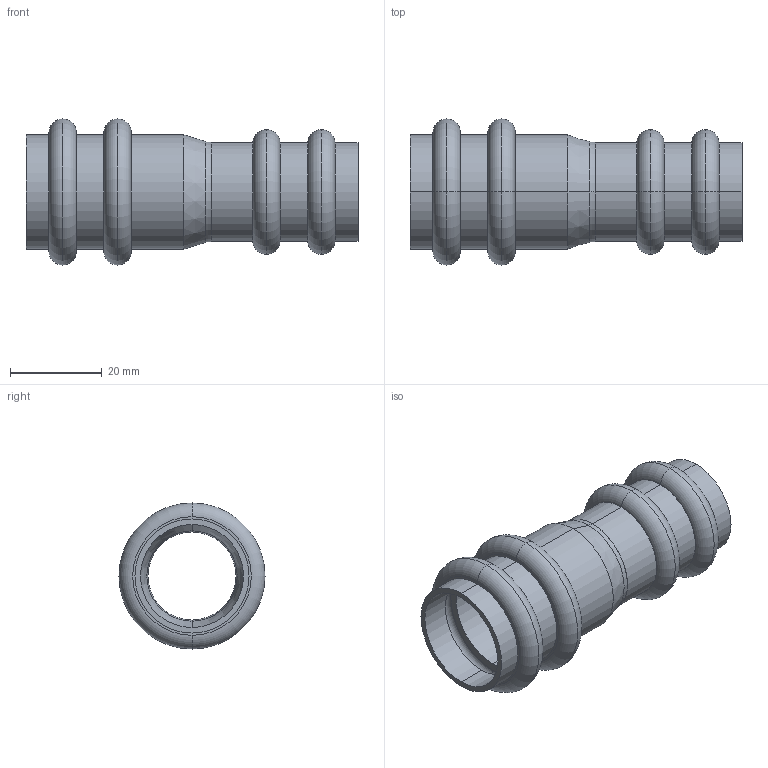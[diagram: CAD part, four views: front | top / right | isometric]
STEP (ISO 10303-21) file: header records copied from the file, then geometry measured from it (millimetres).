
FILE_DESCRIPTION(('starvars output'),'1');
FILE_NAME('cv20240422105340000011619.stp','10:53:41 2024/04/22',('Thomas Industrial Network Germany GmbH'),(' '),'Spatial InterOp 3D',' ',' ');
FILE_SCHEMA(('AUTOMOTIVE_DESIGN { 1 0 10303 214 3 1 1 }'));
Length unit declared in the file: millimetre
Products named in the file (1): 1
Bounding box: 72.5 x 31.9 x 31.9 mm (x, y, z)
Volume: 8189.9 mm3; surface area: 13566.6 mm2
Topology: 1 solids, 1 shells, 84 faces, 168 edges, 104 vertices
Faces by surface type: torus 36, cylinder 24, plane 20, cone 4
Entity records: 2940 total; most frequent: DIRECTION 478, CARTESIAN_POINT 357, ORIENTED_EDGE 336, AXIS2_PLACEMENT_3D 225, EDGE_CURVE 168, CIRCLE 140, EDGE_LOOP 104, VERTEX_POINT 104
